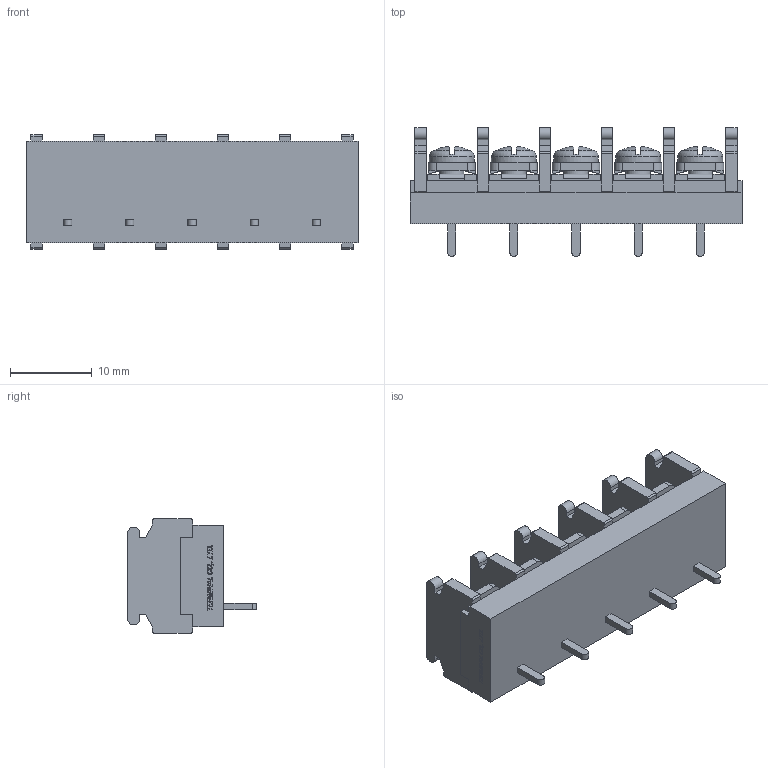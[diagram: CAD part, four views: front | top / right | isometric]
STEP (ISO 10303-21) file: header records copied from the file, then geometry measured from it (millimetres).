
FILE_DESCRIPTION(/* description */ ('Alibre Inc.'),/* implementation_level */ '2;1');
FILE_NAME(/* name */ 'export0',/* time_stamp */ '2015-10-23T19:25:43+09:00',/* author */ (''),/* organization */ (''),/* preprocessor_version */ 'ST-DEVELOPER v14',/* originating_system */ 'Alibre',/* authorisation */ '');
FILE_SCHEMA (('CONFIG_CONTROL_DESIGN'));
Length unit declared in the file: centimetre
Products named in the file (1): ID_1
Bounding box: 40.72 x 15.8 x 14 mm (x, y, z)
Volume: 3867.2 mm3; surface area: 3757.9 mm2
Topology: 1 solids, 1 shells, 972 faces, 2661 edges, 1751 vertices
Faces by surface type: plane 742, bspline 104, cylinder 86, cone 20, torus 10, sphere 10
Full cylindrical faces by diameter (mm): 3 x5, 5.5 x5
Entity records: 29428 total; most frequent: CARTESIAN_POINT 6618, ORIENTED_EDGE 5242, DIRECTION 3533, EDGE_CURVE 2621, VECTOR 1936, LINE 1936, VERTEX_POINT 1731, AXIS2_PLACEMENT_3D 1143
